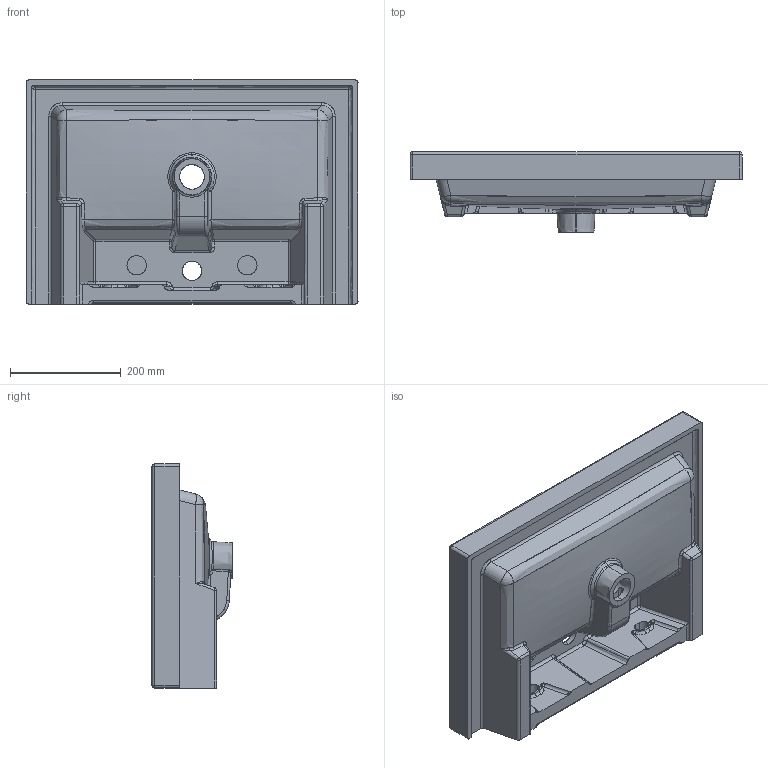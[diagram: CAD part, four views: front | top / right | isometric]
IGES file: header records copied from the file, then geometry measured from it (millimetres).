
Start section: SolidWorks IGES file using analytic representation for surfaces
Global section: file name: K:\lavabi tecla 3D IGS\g. SERIE 40 (4)\SERIE40 40X60 4001011.IGS; native system: SolidWorks 2013; preprocessor: SolidWorks 2013; author: UTENTE 1; date: 140521.170817; units: millimetre
Bounding box: 600 x 145 x 405 mm (x, y, z)
Surface area: 1168862.9 mm2 (no closed solid volume)
Topology: 0 solids, 0 shells, 323 faces, 4343 edges, 4325 vertices
Faces by surface type: bspline 184, revolution 139
